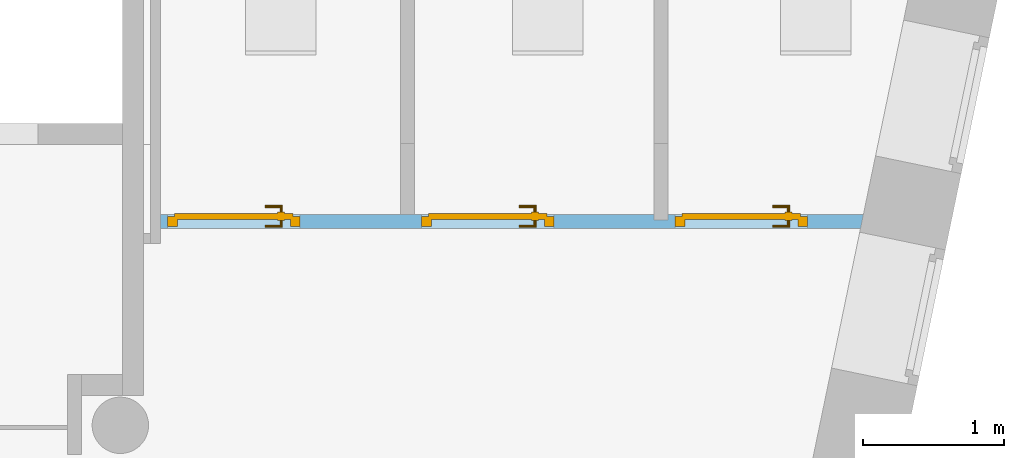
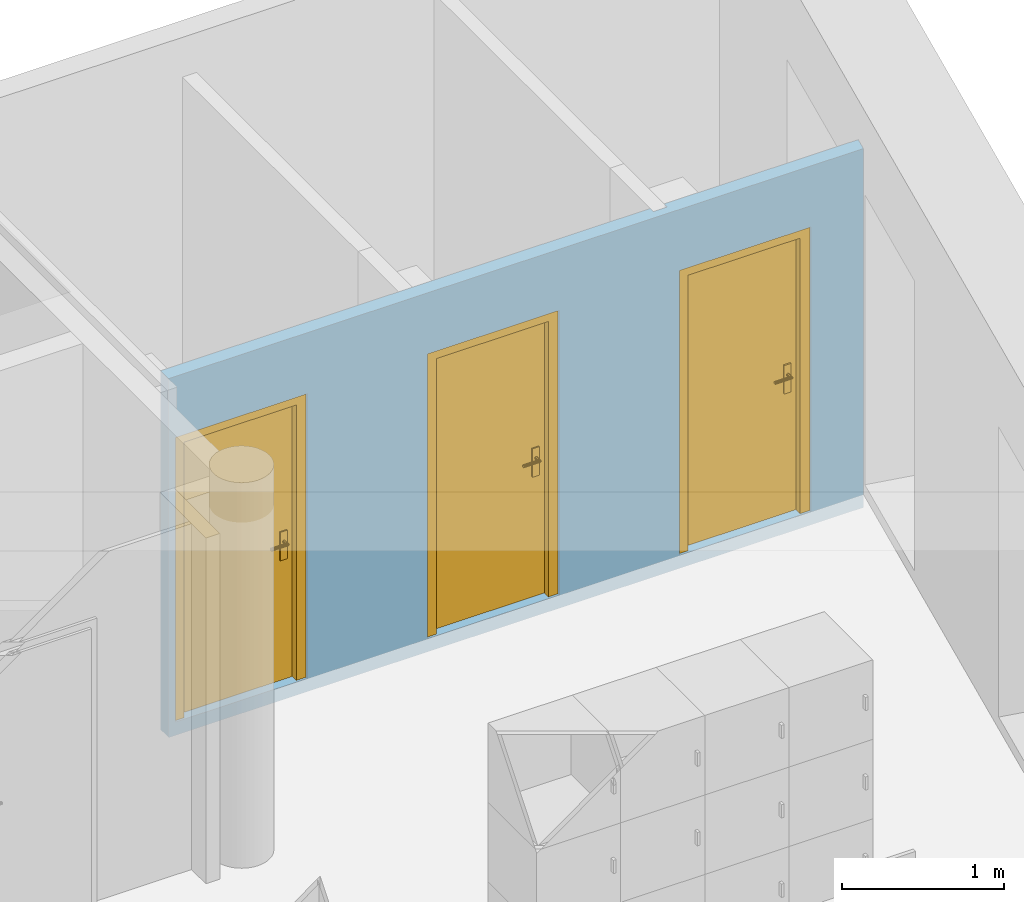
"""IFC4 building model written with IfcOpenShell, lengths in metres."""

from ifc_helpers import new_model, entity, si_unit, converted_unit, derived_unit, frame, origin, origin_with_axes, place, context, subcontext, project, spatial, polyline, outline, extrude, faceted_brep, source, transform, mapped, material, layer, layer_set, layer_usage, element, fill, save


model = new_model("IFC4")

# Units and contexts
model_context = context("Model", 3, precision=1e-05, world=origin())
body_context = subcontext(model_context, "Body", "Model", "MODEL_VIEW")
ifc_project = project(units=[si_unit("LENGTHUNIT", "METRE"), si_unit("AREAUNIT", "SQUARE_METRE"), si_unit("VOLUMEUNIT", "CUBIC_METRE"), si_unit("MASSUNIT", "GRAM", prefix="KILO"), converted_unit("PLANEANGLEUNIT", "DEGREE", entity("IfcPlaneAngleMeasure", 0.0174532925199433), si_unit("PLANEANGLEUNIT", "RADIAN"), dimensions=[0, 0, 0, 0, 0, 0, 0]), derived_unit("THERMALTRANSMITTANCEUNIT", [(si_unit("POWERUNIT", "WATT"), 1), (si_unit("THERMODYNAMICTEMPERATUREUNIT", "KELVIN"), -1), (si_unit("LENGTHUNIT", "METRE"), -2)]), derived_unit("VOLUMETRICFLOWRATEUNIT", [(si_unit("LENGTHUNIT", "METRE"), 3), (converted_unit("TIMEUNIT", "hour", entity("IfcTimeMeasure", 3600.0), si_unit("TIMEUNIT", "SECOND"), dimensions=[0, 0, 1, 0, 0, 0, 0]), -1), (si_unit("LENGTHUNIT", "METRE"), -1)])], contexts=[model_context])

# Building, storeys
building_placement = place(None, origin())
building = spatial("IfcBuilding", under=ifc_project, at=building_placement, Name="HABITATGE PLURIFAMILIAR", CompositionType="ELEMENT")
storey_1_placement = place(building_placement, frame((0.0, 0.0, 15.28)))
storey_1 = spatial("IfcBuildingStorey", under=building, at=storey_1_placement, Name="PLANTA QUARTA", CompositionType="ELEMENT", Elevation=15.28)
storey_2_placement = place(storey_1_placement, frame((0.0, 0.0, 12.27)))
storey_2 = spatial("IfcBuildingStorey", under=storey_1, at=storey_2_placement, Name="NOU", CompositionType="PARTIAL")

# Wall, openings, doors
ifc_material = material()
ifc_layer = layer(ifc_material, 0.1)
ifc_layer_set = layer_set([ifc_layer])
ifc_layer_usage = layer_usage(ifc_layer_set, "AXIS2", "POSITIVE", 0.0)
wall_placement = place(storey_2_placement, frame((426.259243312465, 25.3949838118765, -12.37), z_axis=(0.0, 0.0, 1.0), x_axis=(-1.0, 0.0, 0.0)))
wall = element("IfcWall", 1, at=wall_placement, inside=storey_2, material=ifc_layer_usage, Name="Mampara P4", context=body_context, shape_type="SweptSolid", body=[
    extrude(outline(polyline([(-3.49715302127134, -0.1), (0.0, -0.1), (0.0, 0.0), (-4.96153459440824, 0.0), (-4.98225854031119, -0.1), (-3.59715302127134, -0.1), (-3.59715302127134, -0.0608322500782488), (-3.49715302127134, -0.0608322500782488), (-3.49715302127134, -0.1)])), frame((4.98225854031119, 0.1, 0.0), z_axis=(0.0, 0.0, 1.0), x_axis=(1.0, 0.0, 0.0)), (0.0, 0.0, 1.0), 2.71),
])
opening_1_placement = place(wall_placement, frame((3.99225854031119, 0.0, 0.1), z_axis=(0.0, 1.0, 0.0), x_axis=(0.0, 0.0, 1.0)))
opening_1 = element("IfcOpeningElement", 2, at=opening_1_placement, cuts=wall, Name="Vano porta P4", ObjectType="Opening", context=body_context, shape_type="SweptSolid", body=[
    extrude(outline(polyline([(2.15, 0.94), (2.15, 0.0), (0.0, 0.0), (0.0, 0.94), (2.15, 0.94)])), origin_with_axes(), (0.0, 0.0, 1.0), 0.1),
])
opening_2_placement = place(wall_placement, frame((2.19225854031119, 0.0, 0.1), z_axis=(0.0, 1.0, 0.0), x_axis=(0.0, 0.0, 1.0)))
opening_2 = element("IfcOpeningElement", 3, at=opening_2_placement, cuts=wall, Name="Vano porta P4", ObjectType="Opening", context=body_context, shape_type="SweptSolid", body=[
    extrude(outline(polyline([(2.15, 0.94), (2.15, 0.0), (0.0, 0.0), (0.0, 0.94), (2.15, 0.94)])), origin_with_axes(), (0.0, 0.0, 1.0), 0.1),
])
opening_3_placement = place(wall_placement, frame((0.395105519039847, 0.0, 0.1), z_axis=(0.0, 1.0, 0.0), x_axis=(0.0, 0.0, 1.0)))
opening_3 = element("IfcOpeningElement", 4, at=opening_3_placement, cuts=wall, Name="Vano porta P4", ObjectType="Opening", context=body_context, shape_type="SweptSolid", body=[
    extrude(outline(polyline([(2.15, 0.94), (2.15, 0.0), (0.0, 0.0), (0.0, 0.94), (2.15, 0.94)])), origin_with_axes(), (0.0, 0.0, 1.0), 0.1),
])
shared_shape_1 = source(origin_with_axes(), body_context, "Body", "Brep", [
    faceted_brep([(0.94, 0.07, 2.15), (0.87, 0.07, 2.15), (0.87, 0.07, 0.0), (0.94, 0.07, 0.0), (0.94, 0.0, 0.0), (0.87, 0.0, 0.0), (0.87, 0.0, 2.15), (0.94, 0.0, 2.15)], [[[0, 1, 2, 3]], [[4, 5, 6, 7]], [[3, 4, 7, 0]], [[2, 5, 4, 3]], [[1, 6, 5, 2]], [[0, 7, 6, 1]]], orient=[[False], [False], [False], [False], [False], [False]]),
    faceted_brep([(0.07, 0.07, 2.15), (0.0, 0.07, 2.15), (0.0, 0.07, 0.0), (0.07, 0.07, 0.0), (0.07, 0.0, 0.0), (0.0, 0.0, 0.0), (0.0, 0.0, 2.15), (0.07, 0.0, 2.15)], [[[0, 1, 2, 3]], [[4, 5, 6, 7]], [[3, 4, 7, 0]], [[2, 5, 4, 3]], [[1, 6, 5, 2]], [[0, 7, 6, 1]]], orient=[[False], [False], [False], [False], [False], [False]]),
    faceted_brep([(0.87, 0.07, 2.15), (0.07, 0.07, 2.15), (0.07, 0.07, 2.08), (0.87, 0.07, 2.08), (0.87, 0.0, 2.08), (0.07, 0.0, 2.08), (0.07, 0.0, 2.15), (0.87, 0.0, 2.15)], [[[0, 1, 2, 3]], [[4, 5, 6, 7]], [[3, 4, 7, 0]], [[2, 5, 4, 3]], [[1, 6, 5, 2]], [[0, 7, 6, 1]]], orient=[[False], [False], [False], [False], [False], [False]]),
    faceted_brep([(0.89, 0.09, 2.1), (0.05, 0.09, 2.1), (0.05, 0.09, 0.0), (0.89, 0.09, 0.0), (0.89, 0.05, 0.0), (0.05, 0.05, 0.0), (0.05, 0.05, 2.1), (0.89, 0.05, 2.1)], [[[0, 1, 2, 3]], [[4, 5, 6, 7]], [[3, 4, 7, 0]], [[2, 5, 4, 3]], [[1, 6, 5, 2]], [[0, 7, 6, 1]]], orient=[[False], [False], [False], [False], [False], [False]]),
    faceted_brep([(0.83, 0.05, 1.125), (0.78, 0.05, 1.125), (0.78, 0.05, 0.91), (0.83, 0.05, 0.91), (0.83, 0.04, 0.91), (0.78, 0.04, 0.91), (0.78, 0.04, 1.125), (0.83, 0.04, 1.125)], [[[0, 1, 2, 3]], [[4, 5, 6, 7]], [[3, 4, 7, 0]], [[2, 5, 4, 3]], [[1, 6, 5, 2]], [[0, 7, 6, 1]]], orient=[[False], [False], [False], [False], [False], [False]]),
    faceted_brep([(0.805, 0.04, 1.06), (0.8, 0.04, 1.05866025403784), (0.796339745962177, 0.04, 1.055), (0.795, 0.04, 1.05), (0.796339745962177, 0.04, 1.045), (0.8, 0.04, 1.04133974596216), (0.805, 0.04, 1.04), (0.81, 0.04, 1.04133974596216), (0.813660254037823, 0.04, 1.045), (0.815, 0.04, 1.05), (0.813660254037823, 0.04, 1.055), (0.81, 0.04, 1.05866025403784), (0.81, -0.005, 1.05866025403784), (0.805, 0.0, 1.06), (0.813660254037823, -0.00866025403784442, 1.055), (0.815, -0.01, 1.05), (0.813660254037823, -0.00866025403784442, 1.045), (0.81, -0.005, 1.04133974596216), (0.805, 0.0, 1.04), (0.8, 0.005, 1.04133974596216), (0.796339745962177, 0.00866025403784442, 1.045), (0.795, 0.01, 1.05), (0.796339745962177, 0.00866025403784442, 1.055), (0.8, 0.005, 1.05866025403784), (0.69, 0.0, 1.06), (0.69, -0.005, 1.05866025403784), (0.69, -0.00866025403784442, 1.055), (0.69, -0.01, 1.05), (0.69, -0.00866025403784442, 1.045), (0.69, -0.005, 1.04133974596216), (0.69, 0.0, 1.04), (0.69, 0.005, 1.04133974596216), (0.69, 0.00866025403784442, 1.045), (0.69, 0.01, 1.05), (0.69, 0.00866025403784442, 1.055), (0.69, 0.005, 1.05866025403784)], [[[0, 1, 2, 3, 4, 5, 6, 7, 8, 9, 10, 11]], [[0, 11, 12, 13]], [[11, 10, 14, 12]], [[10, 9, 15, 14]], [[9, 8, 16, 15]], [[8, 7, 17, 16]], [[7, 6, 18, 17]], [[6, 5, 19, 18]], [[5, 4, 20, 19]], [[4, 3, 21, 20]], [[3, 2, 22, 21]], [[2, 1, 23, 22]], [[1, 0, 13, 23]], [[24, 25, 26, 27, 28, 29, 30, 31, 32, 33, 34, 35]], [[13, 12, 25, 24]], [[12, 14, 26, 25]], [[14, 15, 27, 26]], [[15, 16, 28, 27]], [[16, 17, 29, 28]], [[17, 18, 30, 29]], [[18, 19, 31, 30]], [[19, 20, 32, 31]], [[20, 21, 33, 32]], [[21, 22, 34, 33]], [[22, 23, 35, 34]], [[23, 13, 24, 35]]], orient=[[False], [False], [False], [False], [False], [False], [False], [False], [False], [False], [False], [False], [False], [False], [False], [False], [False], [False], [False], [False], [False], [False], [False], [False], [False], [False]]),
    faceted_brep([(0.83, 0.09, 1.125), (0.83, 0.09, 0.91), (0.78, 0.09, 0.91), (0.78, 0.09, 1.125), (0.83, 0.1, 0.91), (0.83, 0.1, 1.125), (0.78, 0.1, 1.125), (0.78, 0.1, 0.91)], [[[0, 1, 2, 3]], [[4, 5, 6, 7]], [[1, 0, 5, 4]], [[2, 1, 4, 7]], [[3, 2, 7, 6]], [[0, 3, 6, 5]]], orient=[[False], [False], [False], [False], [False], [False]]),
    faceted_brep([(0.805, 0.1, 1.06), (0.81, 0.1, 1.05866025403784), (0.813660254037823, 0.1, 1.055), (0.815, 0.1, 1.05), (0.813660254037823, 0.1, 1.045), (0.81, 0.1, 1.04133974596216), (0.805, 0.1, 1.04), (0.8, 0.1, 1.04133974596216), (0.796339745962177, 0.1, 1.045), (0.795, 0.1, 1.05), (0.796339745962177, 0.1, 1.055), (0.8, 0.1, 1.05866025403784), (0.805, 0.14, 1.06), (0.81, 0.145, 1.05866025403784), (0.813660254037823, 0.148660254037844, 1.055), (0.815, 0.15, 1.05), (0.813660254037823, 0.148660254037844, 1.045), (0.81, 0.145, 1.04133974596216), (0.805, 0.14, 1.04), (0.8, 0.135, 1.04133974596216), (0.796339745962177, 0.131339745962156, 1.045), (0.795, 0.13, 1.05), (0.796339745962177, 0.131339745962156, 1.055), (0.8, 0.135, 1.05866025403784), (0.69, 0.14, 1.06), (0.69, 0.135, 1.05866025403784), (0.69, 0.131339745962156, 1.055), (0.69, 0.13, 1.05), (0.69, 0.131339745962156, 1.045), (0.69, 0.135, 1.04133974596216), (0.69, 0.14, 1.04), (0.69, 0.145, 1.04133974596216), (0.69, 0.148660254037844, 1.045), (0.69, 0.15, 1.05), (0.69, 0.148660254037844, 1.055), (0.69, 0.145, 1.05866025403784)], [[[0, 1, 2, 3, 4, 5, 6, 7, 8, 9, 10, 11]], [[0, 12, 13, 1]], [[1, 13, 14, 2]], [[2, 14, 15, 3]], [[3, 15, 16, 4]], [[4, 16, 17, 5]], [[5, 17, 18, 6]], [[6, 18, 19, 7]], [[7, 19, 20, 8]], [[8, 20, 21, 9]], [[9, 21, 22, 10]], [[10, 22, 23, 11]], [[11, 23, 12, 0]], [[24, 25, 26, 27, 28, 29, 30, 31, 32, 33, 34, 35]], [[12, 24, 35, 13]], [[13, 35, 34, 14]], [[14, 34, 33, 15]], [[15, 33, 32, 16]], [[16, 32, 31, 17]], [[17, 31, 30, 18]], [[18, 30, 29, 19]], [[19, 29, 28, 20]], [[20, 28, 27, 21]], [[21, 27, 26, 22]], [[22, 26, 25, 23]], [[23, 25, 24, 12]]], orient=[[False], [False], [False], [False], [False], [False], [False], [False], [False], [False], [False], [False], [False], [False], [False], [False], [False], [False], [False], [False], [False], [False], [False], [False], [False], [False]]),
])
door_1_placement = place(opening_1_placement, frame((0.0, 0.94, 0.085), z_axis=(1.0, 0.0, 0.0), x_axis=(0.0, -1.0, 0.0)))
door_1 = element("IfcDoor", 5, at=door_1_placement, inside=storey_2, Name="Porta P4", OperationType="USERDEFINED", OverallHeight=2.15, OverallWidth=0.94, PredefinedType="DOOR", context=body_context, shape_type="MappedRepresentation", body=[
    mapped(shared_shape_1, transform((0.0, 0.0, 0.0), x_axis=(1.0, 0.0, 0.0), y_axis=(0.0, 1.0, 0.0), z_axis=(0.0, 0.0, 1.0), scale=1.0)),
])
fill(opening_1, door_1)
shared_shape_2 = source(origin_with_axes(), body_context, "Body", "Brep", [
    faceted_brep([(0.94, 0.07, 2.15), (0.87, 0.07, 2.15), (0.87, 0.07, 0.0), (0.94, 0.07, 0.0), (0.94, 0.0, 0.0), (0.87, 0.0, 0.0), (0.87, 0.0, 2.15), (0.94, 0.0, 2.15)], [[[0, 1, 2, 3]], [[4, 5, 6, 7]], [[3, 4, 7, 0]], [[2, 5, 4, 3]], [[1, 6, 5, 2]], [[0, 7, 6, 1]]], orient=[[False], [False], [False], [False], [False], [False]]),
    faceted_brep([(0.07, 0.07, 2.15), (0.0, 0.07, 2.15), (0.0, 0.07, 0.0), (0.07, 0.07, 0.0), (0.07, 0.0, 0.0), (0.0, 0.0, 0.0), (0.0, 0.0, 2.15), (0.07, 0.0, 2.15)], [[[0, 1, 2, 3]], [[4, 5, 6, 7]], [[3, 4, 7, 0]], [[2, 5, 4, 3]], [[1, 6, 5, 2]], [[0, 7, 6, 1]]], orient=[[False], [False], [False], [False], [False], [False]]),
    faceted_brep([(0.87, 0.07, 2.15), (0.07, 0.07, 2.15), (0.07, 0.07, 2.08), (0.87, 0.07, 2.08), (0.87, 0.0, 2.08), (0.07, 0.0, 2.08), (0.07, 0.0, 2.15), (0.87, 0.0, 2.15)], [[[0, 1, 2, 3]], [[4, 5, 6, 7]], [[3, 4, 7, 0]], [[2, 5, 4, 3]], [[1, 6, 5, 2]], [[0, 7, 6, 1]]], orient=[[False], [False], [False], [False], [False], [False]]),
    faceted_brep([(0.89, 0.09, 2.1), (0.05, 0.09, 2.1), (0.05, 0.09, 0.0), (0.89, 0.09, 0.0), (0.89, 0.05, 0.0), (0.05, 0.05, 0.0), (0.05, 0.05, 2.1), (0.89, 0.05, 2.1)], [[[0, 1, 2, 3]], [[4, 5, 6, 7]], [[3, 4, 7, 0]], [[2, 5, 4, 3]], [[1, 6, 5, 2]], [[0, 7, 6, 1]]], orient=[[False], [False], [False], [False], [False], [False]]),
    faceted_brep([(0.83, 0.05, 1.125), (0.78, 0.05, 1.125), (0.78, 0.05, 0.91), (0.83, 0.05, 0.91), (0.83, 0.04, 0.91), (0.78, 0.04, 0.91), (0.78, 0.04, 1.125), (0.83, 0.04, 1.125)], [[[0, 1, 2, 3]], [[4, 5, 6, 7]], [[3, 4, 7, 0]], [[2, 5, 4, 3]], [[1, 6, 5, 2]], [[0, 7, 6, 1]]], orient=[[False], [False], [False], [False], [False], [False]]),
    faceted_brep([(0.805, 0.04, 1.06), (0.8, 0.04, 1.05866025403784), (0.796339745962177, 0.04, 1.055), (0.795, 0.04, 1.05), (0.796339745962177, 0.04, 1.045), (0.8, 0.04, 1.04133974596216), (0.805, 0.04, 1.04), (0.81, 0.04, 1.04133974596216), (0.813660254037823, 0.04, 1.045), (0.815, 0.04, 1.05), (0.813660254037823, 0.04, 1.055), (0.81, 0.04, 1.05866025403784), (0.81, -0.005, 1.05866025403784), (0.805, 0.0, 1.06), (0.813660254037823, -0.00866025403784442, 1.055), (0.815, -0.01, 1.05), (0.813660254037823, -0.00866025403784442, 1.045), (0.81, -0.005, 1.04133974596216), (0.805, 0.0, 1.04), (0.8, 0.005, 1.04133974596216), (0.796339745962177, 0.00866025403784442, 1.045), (0.795, 0.01, 1.05), (0.796339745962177, 0.00866025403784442, 1.055), (0.8, 0.005, 1.05866025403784), (0.69, 0.0, 1.06), (0.69, -0.005, 1.05866025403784), (0.69, -0.00866025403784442, 1.055), (0.69, -0.01, 1.05), (0.69, -0.00866025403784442, 1.045), (0.69, -0.005, 1.04133974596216), (0.69, 0.0, 1.04), (0.69, 0.005, 1.04133974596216), (0.69, 0.00866025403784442, 1.045), (0.69, 0.01, 1.05), (0.69, 0.00866025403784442, 1.055), (0.69, 0.005, 1.05866025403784)], [[[0, 1, 2, 3, 4, 5, 6, 7, 8, 9, 10, 11]], [[0, 11, 12, 13]], [[11, 10, 14, 12]], [[10, 9, 15, 14]], [[9, 8, 16, 15]], [[8, 7, 17, 16]], [[7, 6, 18, 17]], [[6, 5, 19, 18]], [[5, 4, 20, 19]], [[4, 3, 21, 20]], [[3, 2, 22, 21]], [[2, 1, 23, 22]], [[1, 0, 13, 23]], [[24, 25, 26, 27, 28, 29, 30, 31, 32, 33, 34, 35]], [[13, 12, 25, 24]], [[12, 14, 26, 25]], [[14, 15, 27, 26]], [[15, 16, 28, 27]], [[16, 17, 29, 28]], [[17, 18, 30, 29]], [[18, 19, 31, 30]], [[19, 20, 32, 31]], [[20, 21, 33, 32]], [[21, 22, 34, 33]], [[22, 23, 35, 34]], [[23, 13, 24, 35]]], orient=[[False], [False], [False], [False], [False], [False], [False], [False], [False], [False], [False], [False], [False], [False], [False], [False], [False], [False], [False], [False], [False], [False], [False], [False], [False], [False]]),
    faceted_brep([(0.83, 0.09, 1.125), (0.83, 0.09, 0.91), (0.78, 0.09, 0.91), (0.78, 0.09, 1.125), (0.83, 0.1, 0.91), (0.83, 0.1, 1.125), (0.78, 0.1, 1.125), (0.78, 0.1, 0.91)], [[[0, 1, 2, 3]], [[4, 5, 6, 7]], [[1, 0, 5, 4]], [[2, 1, 4, 7]], [[3, 2, 7, 6]], [[0, 3, 6, 5]]], orient=[[False], [False], [False], [False], [False], [False]]),
    faceted_brep([(0.805, 0.1, 1.06), (0.81, 0.1, 1.05866025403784), (0.813660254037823, 0.1, 1.055), (0.815, 0.1, 1.05), (0.813660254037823, 0.1, 1.045), (0.81, 0.1, 1.04133974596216), (0.805, 0.1, 1.04), (0.8, 0.1, 1.04133974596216), (0.796339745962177, 0.1, 1.045), (0.795, 0.1, 1.05), (0.796339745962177, 0.1, 1.055), (0.8, 0.1, 1.05866025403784), (0.805, 0.14, 1.06), (0.81, 0.145, 1.05866025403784), (0.813660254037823, 0.148660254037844, 1.055), (0.815, 0.15, 1.05), (0.813660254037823, 0.148660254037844, 1.045), (0.81, 0.145, 1.04133974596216), (0.805, 0.14, 1.04), (0.8, 0.135, 1.04133974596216), (0.796339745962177, 0.131339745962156, 1.045), (0.795, 0.13, 1.05), (0.796339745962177, 0.131339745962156, 1.055), (0.8, 0.135, 1.05866025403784), (0.69, 0.14, 1.06), (0.69, 0.135, 1.05866025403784), (0.69, 0.131339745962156, 1.055), (0.69, 0.13, 1.05), (0.69, 0.131339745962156, 1.045), (0.69, 0.135, 1.04133974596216), (0.69, 0.14, 1.04), (0.69, 0.145, 1.04133974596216), (0.69, 0.148660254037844, 1.045), (0.69, 0.15, 1.05), (0.69, 0.148660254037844, 1.055), (0.69, 0.145, 1.05866025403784)], [[[0, 1, 2, 3, 4, 5, 6, 7, 8, 9, 10, 11]], [[0, 12, 13, 1]], [[1, 13, 14, 2]], [[2, 14, 15, 3]], [[3, 15, 16, 4]], [[4, 16, 17, 5]], [[5, 17, 18, 6]], [[6, 18, 19, 7]], [[7, 19, 20, 8]], [[8, 20, 21, 9]], [[9, 21, 22, 10]], [[10, 22, 23, 11]], [[11, 23, 12, 0]], [[24, 25, 26, 27, 28, 29, 30, 31, 32, 33, 34, 35]], [[12, 24, 35, 13]], [[13, 35, 34, 14]], [[14, 34, 33, 15]], [[15, 33, 32, 16]], [[16, 32, 31, 17]], [[17, 31, 30, 18]], [[18, 30, 29, 19]], [[19, 29, 28, 20]], [[20, 28, 27, 21]], [[21, 27, 26, 22]], [[22, 26, 25, 23]], [[23, 25, 24, 12]]], orient=[[False], [False], [False], [False], [False], [False], [False], [False], [False], [False], [False], [False], [False], [False], [False], [False], [False], [False], [False], [False], [False], [False], [False], [False], [False], [False]]),
])
door_2_placement = place(opening_2_placement, frame((0.0, 0.94, 0.085), z_axis=(1.0, 0.0, 0.0), x_axis=(0.0, -1.0, 0.0)))
door_2 = element("IfcDoor", 6, at=door_2_placement, inside=storey_2, Name="Porta P4", OperationType="USERDEFINED", OverallHeight=2.15, OverallWidth=0.94, PredefinedType="DOOR", context=body_context, shape_type="MappedRepresentation", body=[
    mapped(shared_shape_2, transform((0.0, 0.0, 0.0), x_axis=(1.0, 0.0, 0.0), y_axis=(0.0, 1.0, 0.0), z_axis=(0.0, 0.0, 1.0), scale=1.0)),
])
fill(opening_2, door_2)
shared_shape_3 = source(origin_with_axes(), body_context, "Body", "Brep", [
    faceted_brep([(0.94, 0.07, 2.15), (0.87, 0.07, 2.15), (0.87, 0.07, 0.0), (0.94, 0.07, 0.0), (0.94, 0.0, 0.0), (0.87, 0.0, 0.0), (0.87, 0.0, 2.15), (0.94, 0.0, 2.15)], [[[0, 1, 2, 3]], [[4, 5, 6, 7]], [[3, 4, 7, 0]], [[2, 5, 4, 3]], [[1, 6, 5, 2]], [[0, 7, 6, 1]]], orient=[[False], [False], [False], [False], [False], [False]]),
    faceted_brep([(0.07, 0.07, 2.15), (0.0, 0.07, 2.15), (0.0, 0.07, 0.0), (0.07, 0.07, 0.0), (0.07, 0.0, 0.0), (0.0, 0.0, 0.0), (0.0, 0.0, 2.15), (0.07, 0.0, 2.15)], [[[0, 1, 2, 3]], [[4, 5, 6, 7]], [[3, 4, 7, 0]], [[2, 5, 4, 3]], [[1, 6, 5, 2]], [[0, 7, 6, 1]]], orient=[[False], [False], [False], [False], [False], [False]]),
    faceted_brep([(0.87, 0.07, 2.15), (0.07, 0.07, 2.15), (0.07, 0.07, 2.08), (0.87, 0.07, 2.08), (0.87, 0.0, 2.08), (0.07, 0.0, 2.08), (0.07, 0.0, 2.15), (0.87, 0.0, 2.15)], [[[0, 1, 2, 3]], [[4, 5, 6, 7]], [[3, 4, 7, 0]], [[2, 5, 4, 3]], [[1, 6, 5, 2]], [[0, 7, 6, 1]]], orient=[[False], [False], [False], [False], [False], [False]]),
    faceted_brep([(0.89, 0.09, 2.1), (0.05, 0.09, 2.1), (0.05, 0.09, 0.0), (0.89, 0.09, 0.0), (0.89, 0.05, 0.0), (0.05, 0.05, 0.0), (0.05, 0.05, 2.1), (0.89, 0.05, 2.1)], [[[0, 1, 2, 3]], [[4, 5, 6, 7]], [[3, 4, 7, 0]], [[2, 5, 4, 3]], [[1, 6, 5, 2]], [[0, 7, 6, 1]]], orient=[[False], [False], [False], [False], [False], [False]]),
    faceted_brep([(0.83, 0.05, 1.125), (0.78, 0.05, 1.125), (0.78, 0.05, 0.91), (0.83, 0.05, 0.91), (0.83, 0.04, 0.91), (0.78, 0.04, 0.91), (0.78, 0.04, 1.125), (0.83, 0.04, 1.125)], [[[0, 1, 2, 3]], [[4, 5, 6, 7]], [[3, 4, 7, 0]], [[2, 5, 4, 3]], [[1, 6, 5, 2]], [[0, 7, 6, 1]]], orient=[[False], [False], [False], [False], [False], [False]]),
    faceted_brep([(0.805, 0.04, 1.06), (0.8, 0.04, 1.05866025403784), (0.796339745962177, 0.04, 1.055), (0.795, 0.04, 1.05), (0.796339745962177, 0.04, 1.045), (0.8, 0.04, 1.04133974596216), (0.805, 0.04, 1.04), (0.81, 0.04, 1.04133974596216), (0.813660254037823, 0.04, 1.045), (0.815, 0.04, 1.05), (0.813660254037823, 0.04, 1.055), (0.81, 0.04, 1.05866025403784), (0.81, -0.005, 1.05866025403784), (0.805, 0.0, 1.06), (0.813660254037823, -0.00866025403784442, 1.055), (0.815, -0.01, 1.05), (0.813660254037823, -0.00866025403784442, 1.045), (0.81, -0.005, 1.04133974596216), (0.805, 0.0, 1.04), (0.8, 0.005, 1.04133974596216), (0.796339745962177, 0.00866025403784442, 1.045), (0.795, 0.01, 1.05), (0.796339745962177, 0.00866025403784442, 1.055), (0.8, 0.005, 1.05866025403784), (0.69, 0.0, 1.06), (0.69, -0.005, 1.05866025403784), (0.69, -0.00866025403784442, 1.055), (0.69, -0.01, 1.05), (0.69, -0.00866025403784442, 1.045), (0.69, -0.005, 1.04133974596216), (0.69, 0.0, 1.04), (0.69, 0.005, 1.04133974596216), (0.69, 0.00866025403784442, 1.045), (0.69, 0.01, 1.05), (0.69, 0.00866025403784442, 1.055), (0.69, 0.005, 1.05866025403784)], [[[0, 1, 2, 3, 4, 5, 6, 7, 8, 9, 10, 11]], [[0, 11, 12, 13]], [[11, 10, 14, 12]], [[10, 9, 15, 14]], [[9, 8, 16, 15]], [[8, 7, 17, 16]], [[7, 6, 18, 17]], [[6, 5, 19, 18]], [[5, 4, 20, 19]], [[4, 3, 21, 20]], [[3, 2, 22, 21]], [[2, 1, 23, 22]], [[1, 0, 13, 23]], [[24, 25, 26, 27, 28, 29, 30, 31, 32, 33, 34, 35]], [[13, 12, 25, 24]], [[12, 14, 26, 25]], [[14, 15, 27, 26]], [[15, 16, 28, 27]], [[16, 17, 29, 28]], [[17, 18, 30, 29]], [[18, 19, 31, 30]], [[19, 20, 32, 31]], [[20, 21, 33, 32]], [[21, 22, 34, 33]], [[22, 23, 35, 34]], [[23, 13, 24, 35]]], orient=[[False], [False], [False], [False], [False], [False], [False], [False], [False], [False], [False], [False], [False], [False], [False], [False], [False], [False], [False], [False], [False], [False], [False], [False], [False], [False]]),
    faceted_brep([(0.83, 0.09, 1.125), (0.83, 0.09, 0.91), (0.78, 0.09, 0.91), (0.78, 0.09, 1.125), (0.83, 0.1, 0.91), (0.83, 0.1, 1.125), (0.78, 0.1, 1.125), (0.78, 0.1, 0.91)], [[[0, 1, 2, 3]], [[4, 5, 6, 7]], [[1, 0, 5, 4]], [[2, 1, 4, 7]], [[3, 2, 7, 6]], [[0, 3, 6, 5]]], orient=[[False], [False], [False], [False], [False], [False]]),
    faceted_brep([(0.805, 0.1, 1.06), (0.81, 0.1, 1.05866025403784), (0.813660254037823, 0.1, 1.055), (0.815, 0.1, 1.05), (0.813660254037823, 0.1, 1.045), (0.81, 0.1, 1.04133974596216), (0.805, 0.1, 1.04), (0.8, 0.1, 1.04133974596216), (0.796339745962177, 0.1, 1.045), (0.795, 0.1, 1.05), (0.796339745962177, 0.1, 1.055), (0.8, 0.1, 1.05866025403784), (0.805, 0.14, 1.06), (0.81, 0.145, 1.05866025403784), (0.813660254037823, 0.148660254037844, 1.055), (0.815, 0.15, 1.05), (0.813660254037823, 0.148660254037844, 1.045), (0.81, 0.145, 1.04133974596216), (0.805, 0.14, 1.04), (0.8, 0.135, 1.04133974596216), (0.796339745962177, 0.131339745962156, 1.045), (0.795, 0.13, 1.05), (0.796339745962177, 0.131339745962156, 1.055), (0.8, 0.135, 1.05866025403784), (0.69, 0.14, 1.06), (0.69, 0.135, 1.05866025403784), (0.69, 0.131339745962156, 1.055), (0.69, 0.13, 1.05), (0.69, 0.131339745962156, 1.045), (0.69, 0.135, 1.04133974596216), (0.69, 0.14, 1.04), (0.69, 0.145, 1.04133974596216), (0.69, 0.148660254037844, 1.045), (0.69, 0.15, 1.05), (0.69, 0.148660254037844, 1.055), (0.69, 0.145, 1.05866025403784)], [[[0, 1, 2, 3, 4, 5, 6, 7, 8, 9, 10, 11]], [[0, 12, 13, 1]], [[1, 13, 14, 2]], [[2, 14, 15, 3]], [[3, 15, 16, 4]], [[4, 16, 17, 5]], [[5, 17, 18, 6]], [[6, 18, 19, 7]], [[7, 19, 20, 8]], [[8, 20, 21, 9]], [[9, 21, 22, 10]], [[10, 22, 23, 11]], [[11, 23, 12, 0]], [[24, 25, 26, 27, 28, 29, 30, 31, 32, 33, 34, 35]], [[12, 24, 35, 13]], [[13, 35, 34, 14]], [[14, 34, 33, 15]], [[15, 33, 32, 16]], [[16, 32, 31, 17]], [[17, 31, 30, 18]], [[18, 30, 29, 19]], [[19, 29, 28, 20]], [[20, 28, 27, 21]], [[21, 27, 26, 22]], [[22, 26, 25, 23]], [[23, 25, 24, 12]]], orient=[[False], [False], [False], [False], [False], [False], [False], [False], [False], [False], [False], [False], [False], [False], [False], [False], [False], [False], [False], [False], [False], [False], [False], [False], [False], [False]]),
])
door_3_placement = place(opening_3_placement, frame((0.0, 0.94, 0.085), z_axis=(1.0, 0.0, 0.0), x_axis=(0.0, -1.0, 0.0)))
door_3 = element("IfcDoor", 7, at=door_3_placement, inside=storey_2, Name="Porta P4", OperationType="USERDEFINED", OverallHeight=2.15, OverallWidth=0.94, PredefinedType="DOOR", context=body_context, shape_type="MappedRepresentation", body=[
    mapped(shared_shape_3, transform((0.0, 0.0, 0.0), x_axis=(1.0, 0.0, 0.0), y_axis=(0.0, 1.0, 0.0), z_axis=(0.0, 0.0, 1.0), scale=1.0)),
])
fill(opening_3, door_3)

save(model, "model.ifc")
